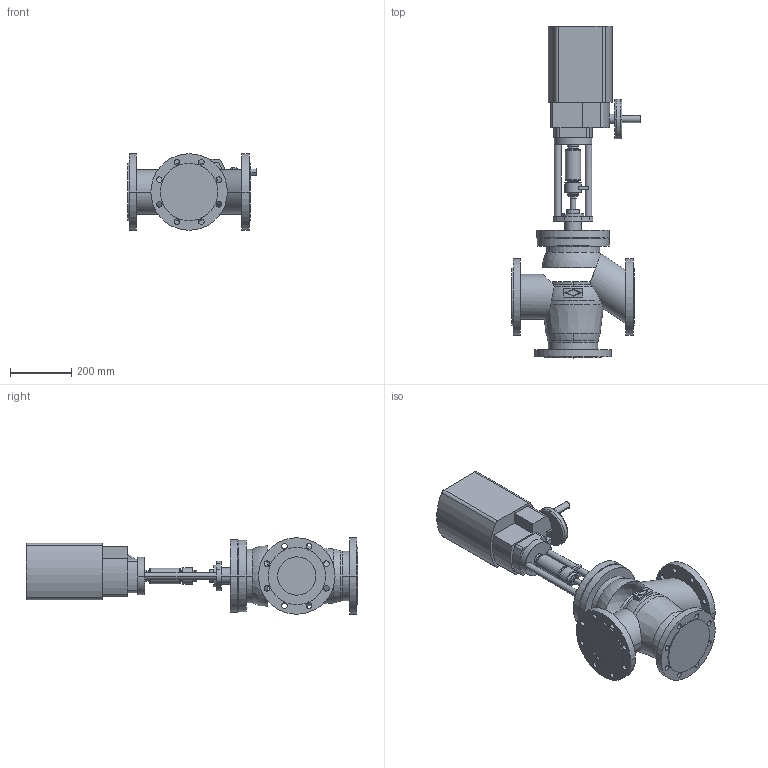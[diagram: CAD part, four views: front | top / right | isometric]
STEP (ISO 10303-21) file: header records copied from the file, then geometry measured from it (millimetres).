
FILE_DESCRIPTION( ( '' ), '1' );
FILE_NAME( 'F:/DE-SHS/TB/OR/04-Sonstiges/daten/files_3d/450-PREMIO-Plus-2G/c000006524.stp', '2017-02-22T12:51:22', ( '' ), ( '' ), ' ', ' ', ' ' );
FILE_SCHEMA( ( 'CONFIG_CONTROL_DESIGN' ) );
Length unit declared in the file: millimetre
Products named in the file (2): 1; 2
Bounding box: 419.05 x 1085 x 250 mm (x, y, z)
Volume: 26649474.1 mm3; surface area: 1271173 mm2
Topology: 2 solids, 2 shells, 267 faces, 689 edges, 449 vertices
Faces by surface type: cylinder 132, plane 95, torus 24, cone 10, sphere 6
Entity records: 9230 total; most frequent: CARTESIAN_POINT 2247, DIRECTION 1570, ORIENTED_EDGE 1362, EDGE_CURVE 681, AXIS2_PLACEMENT_3D 648, VERTEX_POINT 449, CIRCLE 377, EDGE_LOOP 346
